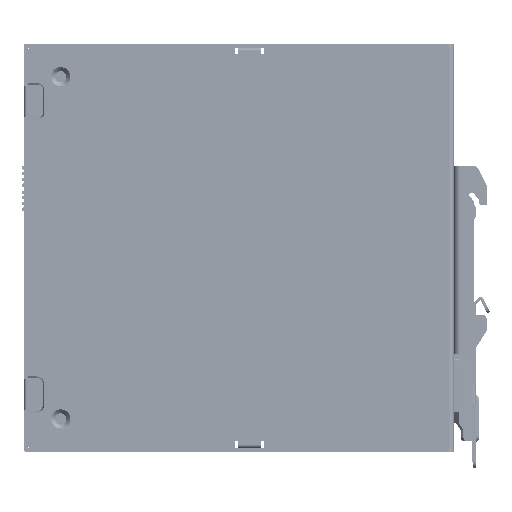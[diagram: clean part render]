
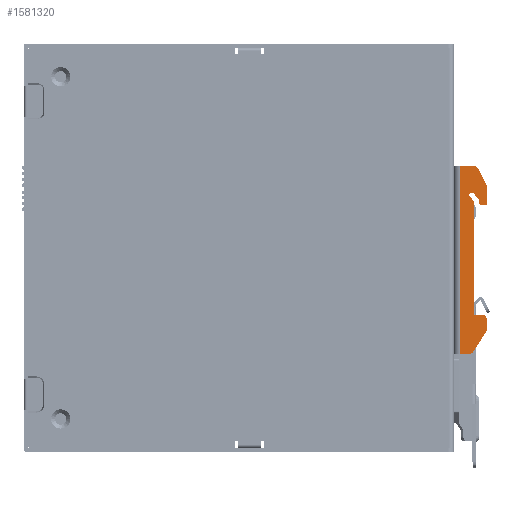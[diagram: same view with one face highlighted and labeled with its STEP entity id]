
A CAD part, front view. The second image highlights one B-rep face of the part: STEP entity #1581320.
In plain terms, the highlighted planar face has unit normal (0, -1, 0) as drawn and (-1, 0, 0) by its records, which use the part's own axes.
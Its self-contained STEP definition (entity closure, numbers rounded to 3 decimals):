
#1576670=CARTESIAN_POINT('',(1945.231,2561.925,
25.923));
#1576680=VERTEX_POINT('',#1576670);
#1576710=CARTESIAN_POINT('',(1945.231,2561.925,
25.923));
#1576720=DIRECTION('',(0.,0.,-1.));
#1576730=VECTOR('',#1576720,1.);
#1576740=LINE('',#1576710,#1576730);
#1576750=CARTESIAN_POINT('',(1945.231,2561.925,
21.55));
#1576760=VERTEX_POINT('',#1576750);
#1576770=EDGE_CURVE('',#1576680,#1576760,#1576740,.T.);
#1579200=CARTESIAN_POINT('',(1945.231,2516.324,
25.85));
#1579210=VERTEX_POINT('',#1579200);
#1579240=CARTESIAN_POINT('',(1945.231,2550.801,
25.85));
#1579250=DIRECTION('',(0.,-1.,0.));
#1579260=VECTOR('',#1579250,1.);
#1579270=LINE('',#1579240,#1579260);
#1579280=CARTESIAN_POINT('',(1945.231,2550.801,
25.85));
#1579290=VERTEX_POINT('',#1579280);
#1579300=EDGE_CURVE('',#1579290,#1579210,#1579270,.T.);
#1579460=CARTESIAN_POINT('',(1945.231,2550.801,
24.85));
#1579470=DIRECTION('',(-1.,0.,0.));
#1579480=DIRECTION('',(0.,0.,1.));
#1579490=AXIS2_PLACEMENT_3D('',#1579460,#1579470,#1579480);
#1579500=CIRCLE('',#1579490,1.);
#1579510=CARTESIAN_POINT('',(1945.231,2551.449,
25.611));
#1579520=VERTEX_POINT('',#1579510);
#1579530=EDGE_CURVE('',#1579290,#1579520,#1579500,.T.);
#1579660=CARTESIAN_POINT('',(1945.231,2557.325,
22.904));
#1579670=DIRECTION('',(-1.,0.,0.));
#1579680=DIRECTION('',(0.,0.,1.));
#1579690=AXIS2_PLACEMENT_3D('',#1579660,#1579670,#1579680);
#1579700=PLANE('',#1579690);
#1579710=ORIENTED_EDGE('',*,*,#1579530,.T.);
#1579720=ORIENTED_EDGE('',*,*,#1579300,.F.);
#1579730=CARTESIAN_POINT('',(1945.231,2516.324,
25.85));
#1579740=DIRECTION('',(0.,0.,1.));
#1579750=VECTOR('',#1579740,1.);
#1579760=LINE('',#1579730,#1579750);
#1579770=CARTESIAN_POINT('',(1945.231,2516.324,
28.35));
#1579780=VERTEX_POINT('',#1579770);
#1579790=EDGE_CURVE('',#1579210,#1579780,#1579760,.T.);
#1579800=ORIENTED_EDGE('',*,*,#1579790,.F.);
#1579810=CARTESIAN_POINT('',(1945.231,2514.824,
28.35));
#1579820=DIRECTION('',(-1.,0.,0.));
#1579830=DIRECTION('',(0.,0.,1.));
#1579840=AXIS2_PLACEMENT_3D('',#1579810,#1579820,#1579830);
#1579850=CIRCLE('',#1579840,1.5);
#1579860=CARTESIAN_POINT('',(1945.231,2514.824,
29.85));
#1579870=VERTEX_POINT('',#1579860);
#1579880=EDGE_CURVE('',#1579870,#1579780,#1579850,.T.);
#1579890=ORIENTED_EDGE('',*,*,#1579880,.T.);
#1579900=CARTESIAN_POINT('',(1945.231,2514.824,
29.85));
#1579910=DIRECTION('',(0.,-1.,0.));
#1579920=VECTOR('',#1579910,1.);
#1579930=LINE('',#1579900,#1579920);
#1579940=CARTESIAN_POINT('',(1945.231,2511.765,
29.85));
#1579950=VERTEX_POINT('',#1579940);
#1579960=EDGE_CURVE('',#1579870,#1579950,#1579930,.T.);
#1579970=ORIENTED_EDGE('',*,*,#1579960,.F.);
#1579980=CARTESIAN_POINT('',(1945.231,2511.765,
28.35));
#1579990=DIRECTION('',(-1.,0.,0.));
#1580000=DIRECTION('',(0.,-0.541,0.841));
#1580010=AXIS2_PLACEMENT_3D('',#1579980,#1579990,#1580000);
#1580020=CIRCLE('',#1580010,1.5);
#1580030=CARTESIAN_POINT('',(1945.231,2510.953,
29.612));
#1580040=VERTEX_POINT('',#1580030);
#1580050=EDGE_CURVE('',#1580040,#1579950,#1580020,.T.);
#1580060=ORIENTED_EDGE('',*,*,#1580050,.T.);
#1580070=CARTESIAN_POINT('',(1945.231,2505.014,
25.793));
#1580080=DIRECTION('',(0.,0.841,0.541));
#1580090=VECTOR('',#1580080,1.);
#1580100=LINE('',#1580070,#1580090);
#1580110=CARTESIAN_POINT('',(1945.231,2505.014,
25.793));
#1580120=VERTEX_POINT('',#1580110);
#1580130=EDGE_CURVE('',#1580120,#1580040,#1580100,.T.);
#1580140=ORIENTED_EDGE('',*,*,#1580130,.T.);
#1580150=CARTESIAN_POINT('',(1945.231,2505.825,
24.531));
#1580160=DIRECTION('',(-1.,0.,0.));
#1580170=DIRECTION('',(0.,-1.,0.));
#1580180=AXIS2_PLACEMENT_3D('',#1580150,#1580160,#1580170);
#1580190=CIRCLE('',#1580180,1.5);
#1580200=CARTESIAN_POINT('',(1945.231,2504.325,
24.531));
#1580210=VERTEX_POINT('',#1580200);
#1580220=EDGE_CURVE('',#1580210,#1580120,#1580190,.T.);
#1580230=ORIENTED_EDGE('',*,*,#1580220,.T.);
#1580240=CARTESIAN_POINT('',(1945.231,2504.325,
24.531));
#1580250=DIRECTION('',(0.,0.,-1.));
#1580260=VECTOR('',#1580250,1.);
#1580270=LINE('',#1580240,#1580260);
#1580280=CARTESIAN_POINT('',(1945.231,2504.325,
21.55));
#1580290=VERTEX_POINT('',#1580280);
#1580300=EDGE_CURVE('',#1580210,#1580290,#1580270,.T.);
#1580310=ORIENTED_EDGE('',*,*,#1580300,.F.);
#1580320=CARTESIAN_POINT('',(1945.231,2504.325,
21.55));
#1580330=DIRECTION('',(0.,1.,0.));
#1580340=VECTOR('',#1580330,1.);
#1580350=LINE('',#1580320,#1580340);
#1580360=EDGE_CURVE('',#1580290,#1576760,#1580350,.T.);
#1580370=ORIENTED_EDGE('',*,*,#1580360,.F.);
#1580380=ORIENTED_EDGE('',*,*,#1576770,.T.);
#1580390=CARTESIAN_POINT('',(1945.231,2560.425,
25.923));
#1580400=DIRECTION('',(-1.,0.,0.));
#1580410=DIRECTION('',(0.,0.447,0.894));
#1580420=AXIS2_PLACEMENT_3D('',#1580390,#1580400,#1580410);
#1580430=CIRCLE('',#1580420,1.5);
#1580440=CARTESIAN_POINT('',(1945.231,2561.096,
27.265));
#1580450=VERTEX_POINT('',#1580440);
#1580460=EDGE_CURVE('',#1580450,#1576680,#1580430,.T.);
#1580470=ORIENTED_EDGE('',*,*,#1580460,.T.);
#1580480=CARTESIAN_POINT('',(1945.231,2556.242,
29.692));
#1580490=DIRECTION('',(0.,0.894,-0.447));
#1580500=VECTOR('',#1580490,1.);
#1580510=LINE('',#1580480,#1580500);
#1580520=CARTESIAN_POINT('',(1945.231,2556.242,
29.692));
#1580530=VERTEX_POINT('',#1580520);
#1580540=EDGE_CURVE('',#1580530,#1580450,#1580510,.T.);
#1580550=ORIENTED_EDGE('',*,*,#1580540,.T.);
#1580560=CARTESIAN_POINT('',(1945.231,2555.571,
28.35));
#1580570=DIRECTION('',(-1.,0.,0.));
#1580580=DIRECTION('',(0.,0.,1.));
#1580590=AXIS2_PLACEMENT_3D('',#1580560,#1580570,#1580580);
#1580600=CIRCLE('',#1580590,1.5);
#1580610=CARTESIAN_POINT('',(1945.231,2555.571,
29.85));
#1580620=VERTEX_POINT('',#1580610);
#1580630=EDGE_CURVE('',#1580620,#1580530,#1580600,.T.);
#1580640=ORIENTED_EDGE('',*,*,#1580630,.T.);
#1580650=CARTESIAN_POINT('',(1945.231,2555.571,
29.85));
#1580660=DIRECTION('',(0.,-1.,0.));
#1580670=VECTOR('',#1580660,1.);
#1580680=LINE('',#1580650,#1580670);
#1580690=CARTESIAN_POINT('',(1945.231,2550.325,
29.85));
#1580700=VERTEX_POINT('',#1580690);
#1580710=EDGE_CURVE('',#1580620,#1580700,#1580680,.T.);
#1580720=ORIENTED_EDGE('',*,*,#1580710,.F.);
#1580730=CARTESIAN_POINT('',(1945.231,2550.325,
29.35));
#1580740=DIRECTION('',(-1.,0.,0.));
#1580750=DIRECTION('',(0.,-1.,0.));
#1580760=AXIS2_PLACEMENT_3D('',#1580730,#1580740,#1580750);
#1580770=CIRCLE('',#1580760,0.5);
#1580780=CARTESIAN_POINT('',(1945.231,2549.825,
29.35));
#1580790=VERTEX_POINT('',#1580780);
#1580800=EDGE_CURVE('',#1580790,#1580700,#1580770,.T.);
#1580810=ORIENTED_EDGE('',*,*,#1580800,.T.);
#1580820=CARTESIAN_POINT('',(1945.231,2549.825,
29.35));
#1580830=DIRECTION('',(0.,0.,-1.));
#1580840=VECTOR('',#1580830,1.);
#1580850=LINE('',#1580820,#1580840);
#1580860=CARTESIAN_POINT('',(1945.231,2549.825,
28.35));
#1580870=VERTEX_POINT('',#1580860);
#1580880=EDGE_CURVE('',#1580790,#1580870,#1580850,.T.);
#1580890=ORIENTED_EDGE('',*,*,#1580880,.F.);
#1580900=CARTESIAN_POINT('',(1945.231,2550.825,
28.35));
#1580910=DIRECTION('',(-1.,0.,0.));
#1580920=DIRECTION('',(0.,0.,-1.));
#1580930=AXIS2_PLACEMENT_3D('',#1580900,#1580910,#1580920);
#1580940=CIRCLE('',#1580930,1.);
#1580950=CARTESIAN_POINT('',(1945.231,2550.825,
27.35));
#1580960=VERTEX_POINT('',#1580950);
#1580970=EDGE_CURVE('',#1580960,#1580870,#1580940,.T.);
#1580980=ORIENTED_EDGE('',*,*,#1580970,.T.);
#1580990=CARTESIAN_POINT('',(1945.231,2550.825,
27.35));
#1581000=DIRECTION('',(0.,1.,0.));
#1581010=VECTOR('',#1581000,1.);
#1581020=LINE('',#1580990,#1581010);
#1581030=CARTESIAN_POINT('',(1945.231,2551.721,
27.35));
#1581040=VERTEX_POINT('',#1581030);
#1581050=EDGE_CURVE('',#1580960,#1581040,#1581020,.T.);
#1581060=ORIENTED_EDGE('',*,*,#1581050,.F.);
#1581070=CARTESIAN_POINT('',(1945.231,2553.483,
25.85));
#1581080=DIRECTION('',(0.,-0.761,0.648));
#1581090=VECTOR('',#1581080,1.);
#1581100=LINE('',#1581070,#1581090);
#1581110=CARTESIAN_POINT('',(1945.231,2553.483,
25.85));
#1581120=VERTEX_POINT('',#1581110);
#1581130=EDGE_CURVE('',#1581120,#1581040,#1581100,.T.);
#1581140=ORIENTED_EDGE('',*,*,#1581130,.T.);
#1581150=CARTESIAN_POINT('',(1945.231,2552.997,
25.279));
#1581160=DIRECTION('',(1.,0.,0.));
#1581170=DIRECTION('',(0.,-0.648,-0.761));
#1581180=AXIS2_PLACEMENT_3D('',#1581150,#1581160,#1581170);
#1581190=CIRCLE('',#1581180,0.75);
#1581200=CARTESIAN_POINT('',(1945.231,2552.511,
24.708));
#1581210=VERTEX_POINT('',#1581200);
#1581220=EDGE_CURVE('',#1581210,#1581120,#1581190,.T.);
#1581230=ORIENTED_EDGE('',*,*,#1581220,.T.);
#1581240=CARTESIAN_POINT('',(1945.231,2551.449,
25.611));
#1581250=DIRECTION('',(0.,0.761,-0.648));
#1581260=VECTOR('',#1581250,1.);
#1581270=LINE('',#1581240,#1581260);
#1581280=EDGE_CURVE('',#1579520,#1581210,#1581270,.T.);
#1581290=ORIENTED_EDGE('',*,*,#1581280,.T.);
#1581300=EDGE_LOOP('',(#1581290,#1581230,#1581140,#1581060,#1580980,
#1580890,#1580810,#1580720,#1580640,#1580550,#1580470,#1580380,#1580370,
#1580310,#1580230,#1580140,#1580060,#1579970,#1579890,#1579800,#1579720,
#1579710));
#1581310=FACE_OUTER_BOUND('',#1581300,.T.);
#1581320=ADVANCED_FACE('',(#1581310),#1579700,.T.);
